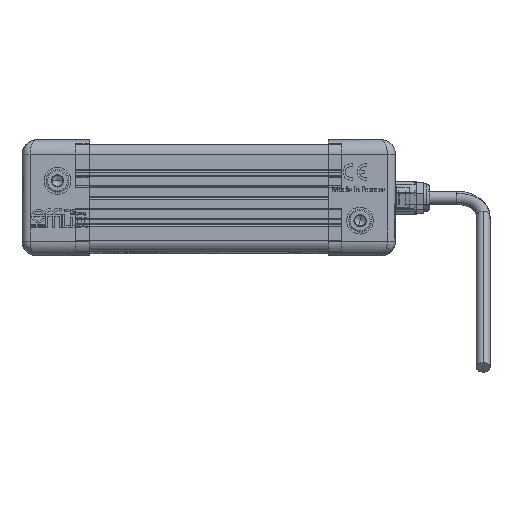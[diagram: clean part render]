
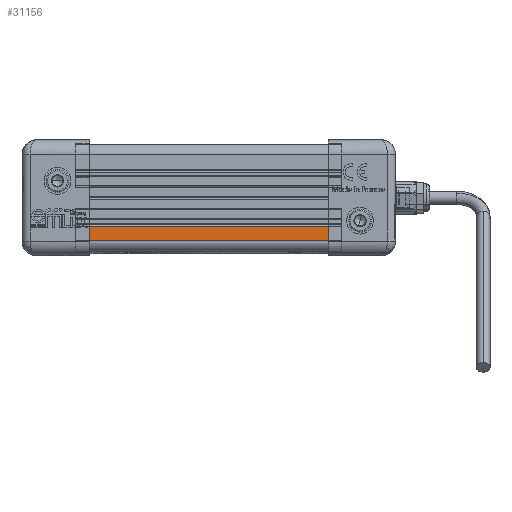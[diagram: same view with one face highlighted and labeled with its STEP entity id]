
A CAD part, front view. The second image highlights one B-rep face of the part: STEP entity #31156.
In plain terms, the highlighted planar face has unit normal (0, -1, 0) as drawn and (-1, 0, 0) by its records, which use the part's own axes.
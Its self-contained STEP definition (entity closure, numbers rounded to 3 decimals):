
#2510 = ORIENTED_EDGE ( 'NONE', *, *, #6173, .F. ) ;
#2659 = VERTEX_POINT ( 'NONE', #25058 ) ;
#5698 = DIRECTION ( 'NONE',  ( 0., -1., 0. ) ) ;
#6173 = EDGE_CURVE ( 'NONE', #72415, #24727, #46260, .T. ) ;
#10084 = CARTESIAN_POINT ( 'NONE',  ( -9., -10.5, 99. ) ) ;
#10302 = ORIENTED_EDGE ( 'NONE', *, *, #47843, .T. ) ;
#10602 = CARTESIAN_POINT ( 'NONE',  ( -9., -10.5, 0. ) ) ;
#11173 = ORIENTED_EDGE ( 'NONE', *, *, #19560, .T. ) ;
#15027 = EDGE_LOOP ( 'NONE', ( #11173, #2510, #65735, #10302 ) ) ;
#15870 = DIRECTION ( 'NONE',  ( 0., 1., 0. ) ) ;
#16944 = CARTESIAN_POINT ( 'NONE',  ( -9., -16., 0. ) ) ;
#16951 = CARTESIAN_POINT ( 'NONE',  ( -9., -10.5, 99. ) ) ;
#19560 = EDGE_CURVE ( 'NONE', #20482, #24727, #56666, .T. ) ;
#20482 = VERTEX_POINT ( 'NONE', #46412 ) ;
#24727 = VERTEX_POINT ( 'NONE', #16944 ) ;
#25058 = CARTESIAN_POINT ( 'NONE',  ( -9., -10.5, 99. ) ) ;
#30291 = CARTESIAN_POINT ( 'NONE',  ( -9., -16., 99. ) ) ;
#31156 = ADVANCED_FACE ( 'NONE', ( #44144 ), #67929, .F. ) ;
#34848 = LINE ( 'NONE', #52644, #52779 ) ;
#36709 = VECTOR ( 'NONE', #53256, 1000. ) ;
#39454 = EDGE_CURVE ( 'NONE', #2659, #72415, #49405, .T. ) ;
#40809 = DIRECTION ( 'NONE',  ( 0., 0., -1. ) ) ;
#44144 = FACE_OUTER_BOUND ( 'NONE', #15027, .T. ) ;
#46260 = LINE ( 'NONE', #30291, #36709 ) ;
#46412 = CARTESIAN_POINT ( 'NONE',  ( -9., -10.5, 0. ) ) ;
#47681 = CARTESIAN_POINT ( 'NONE',  ( -9., -16., 99. ) ) ;
#47843 = EDGE_CURVE ( 'NONE', #2659, #20482, #34848, .T. ) ;
#49405 = LINE ( 'NONE', #10084, #67712 ) ;
#52644 = CARTESIAN_POINT ( 'NONE',  ( -9., -10.5, 99. ) ) ;
#52779 = VECTOR ( 'NONE', #40809, 1000. ) ;
#53256 = DIRECTION ( 'NONE',  ( 0., 0., -1. ) ) ;
#54326 = AXIS2_PLACEMENT_3D ( 'NONE', #16951, #66866, #15870 ) ;
#56666 = LINE ( 'NONE', #10602, #67393 ) ;
#61065 = DIRECTION ( 'NONE',  ( 0., -1., 0. ) ) ;
#65735 = ORIENTED_EDGE ( 'NONE', *, *, #39454, .F. ) ;
#66866 = DIRECTION ( 'NONE',  ( 1., 0., 0. ) ) ;
#67393 = VECTOR ( 'NONE', #5698, 1000. ) ;
#67712 = VECTOR ( 'NONE', #61065, 1000. ) ;
#67929 = PLANE ( 'NONE',  #54326 ) ;
#72415 = VERTEX_POINT ( 'NONE', #47681 ) ;
